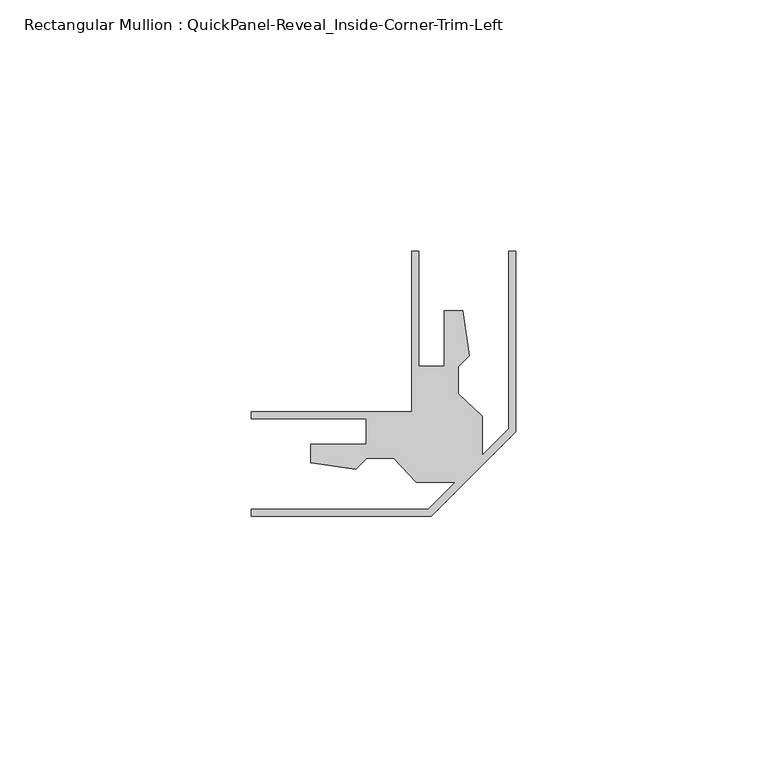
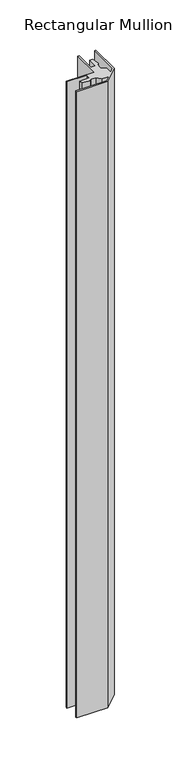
"""IFC4 building model written with IfcOpenShell, lengths in millimetres: member geometry, Rectangular Mullion : QuickPanel-Reveal_Inside-Corner-Trim-Left."""

from ifc_helpers import new_model, si_unit, frame, origin, place, context, project, spatial, polyline, outline, extrude, source, transform, mapped, element, save


def rectangular_mullion_quickpanel_reveal_inside_corner_trim_136b32a6(model_context):
    return source(origin(), model_context, "Body", "SweptSolid", [
        extrude(outline(polyline([(-52.7287461, -8.6243695), (-52.7287461, -7.2213769), (-17.4346146, -7.2213769), (-12.0632366, -1.8499989), (-19.8191321, -1.8499989), (-24.2846123, 2.9386423), (-29.7291112, 2.9386423), (-31.8901977, 0.7775558), (-40.8152941, 2.0318963), (-40.8152941, 5.7255034), (-29.8281143, 5.7255034), (-29.8281143, 10.7810495), (-52.7287461, 10.7810495), (-52.7287461, 12.1810781), (-20.7199597, 12.1810781), (-20.7199597, 44.1868662), (-19.319931, 44.1868662), (-19.319931, 21.2892327), (-14.2643849, 21.2892327), (-14.2643849, 32.2764126), (-10.5707778, 32.2764126), (-9.3164373, 23.3513162), (-11.4775238, 21.1902297), (-11.4775238, 15.7457308), (-6.6888826, 11.2802506), (-6.6888826, 3.5243551), (-1.4029926, 8.810245), (-1.4029926, 44.1868662), (0.0, 44.1868662), (0.0, 8.2333752), (-16.8577447, -8.6243695), (-52.7287461, -8.6243695)])), frame((0.0, 0.0, -762.0), z_axis=(0.0, 0.0, 1.0), x_axis=(1.0, 0.0, 0.0)), (0.0, 0.0, 1.0), 762.0),
    ])


if __name__ == "__main__":
    model = new_model("IFC4")
    model_context = context("Model", 3, world=origin())
    ifc_project = project(units=[si_unit("LENGTHUNIT", "METRE", prefix="MILLI")], contexts=[model_context])
    site = spatial("IfcSite", under=ifc_project)
    building = spatial("IfcBuilding", under=site)
    placement = place(None, origin())
    rectangular_mullion_quickpanel_reveal_inside_corner_trim_shape = rectangular_mullion_quickpanel_reveal_inside_corner_trim_136b32a6(model_context)
    element("IfcMember", 1, ObjectType="Rectangular Mullion : QuickPanel-Reveal_Inside-Corner-Trim-Left", at=placement, inside=building, context=model_context, shape_type="MappedRepresentation", body=[
        mapped(rectangular_mullion_quickpanel_reveal_inside_corner_trim_shape, transform((0.0, 0.0, 0.0), x_axis=(1.0, 0.0, 0.0), y_axis=(0.0, 1.0, 0.0), z_axis=(0.0, 0.0, 1.0))),
    ])
    save(model, "model.ifc")
